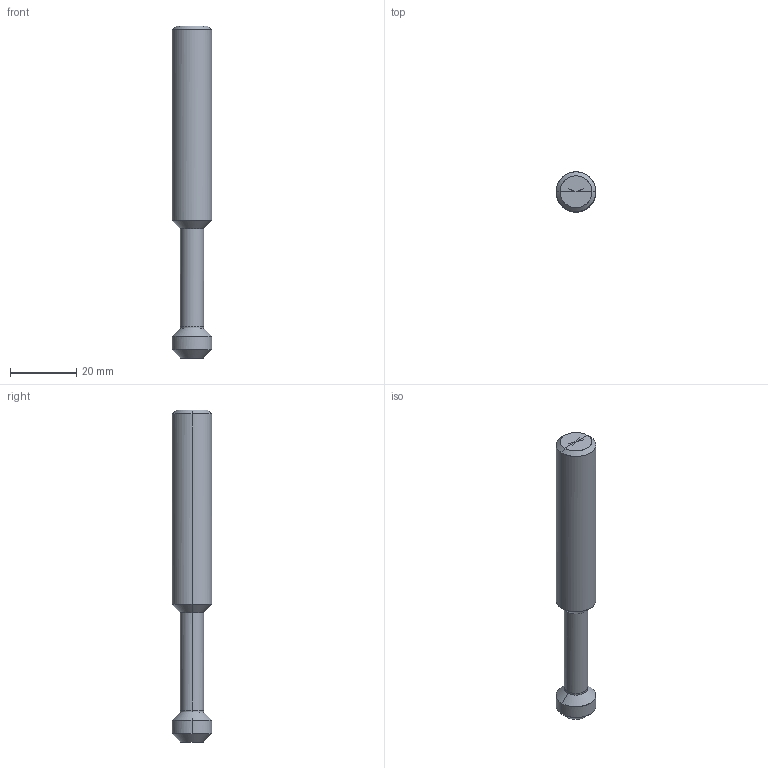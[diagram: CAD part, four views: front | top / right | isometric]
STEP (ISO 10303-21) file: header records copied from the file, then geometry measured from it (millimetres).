
FILE_DESCRIPTION(/* description */ (''),/* implementation_level */ '2;1');
FILE_NAME(/*name*/ '4111-12-90',/*time_stamp*/'2021-5-17T8:23:41',/*author*/ ('ISBE GmbH'),/*organization*/ ('ISBE GmbH'),/*preprocessor_version*/ 'STEP IO v1.0',/*originating_system*/ '',/*authorisation*/ '');
FILE_SCHEMA (('AUTOMOTIVE_DESIGN'));
Length unit declared in the file: millimetre
Products named in the file (1): Document
Bounding box: 12 x 12 x 100 mm (x, y, z)
Surface area: 3537.7 mm2 (no closed solid volume)
Topology: 0 solids, 26 shells, 26 faces, 108 edges, 104 vertices
Faces by surface type: bspline 26
Entity records: 1223 total; most frequent: CARTESIAN_POINT 770, VERTEX_POINT 96, EDGE_CURVE 96, ORIENTED_EDGE 96, EDGE_LOOP 26, FACE_OUTER_BOUND 26, ADVANCED_FACE 26, DIRECTION 16
